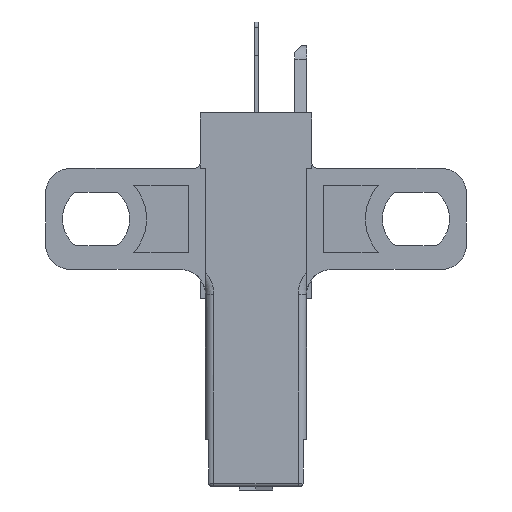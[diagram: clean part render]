
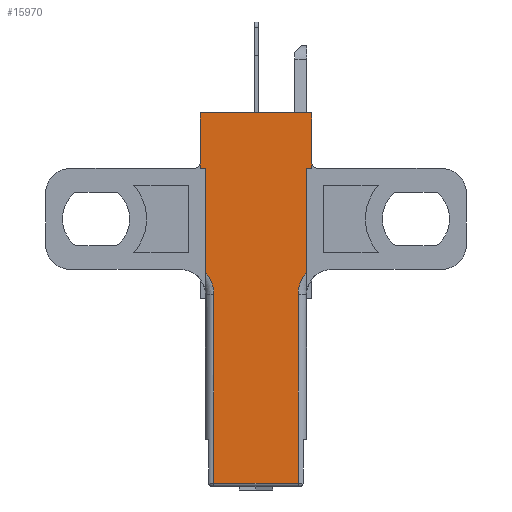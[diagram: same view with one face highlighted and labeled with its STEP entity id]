
A CAD part, front view. The second image highlights one B-rep face of the part: STEP entity #15970.
In plain terms, the highlighted planar face has unit normal (0, -1, 0).
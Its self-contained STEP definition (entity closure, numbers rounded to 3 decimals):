
#31 = CARTESIAN_POINT ( 'NONE',  ( 1.286, -4.287, 23.377 ) ) ;
#302 = AXIS2_PLACEMENT_3D ( 'NONE', #900, #10781, #2323 ) ;
#309 = VECTOR ( 'NONE', #7341, 1000. ) ;
#416 = CARTESIAN_POINT ( 'NONE',  ( 1.266, -4.287, 23.1 ) ) ;
#512 = EDGE_CURVE ( 'NONE', #16768, #6977, #18088, .T. ) ;
#513 = DIRECTION ( 'NONE',  ( -1., 0., 0. ) ) ;
#688 = AXIS2_PLACEMENT_3D ( 'NONE', #6521, #16442, #7949 ) ;
#716 = VERTEX_POINT ( 'NONE', #4762 ) ;
#718 = CARTESIAN_POINT ( 'NONE',  ( 1.266, -4.287, 4.2 ) ) ;
#801 = CARTESIAN_POINT ( 'NONE',  ( 2.466, -4.287, 15.6 ) ) ;
#900 = CARTESIAN_POINT ( 'NONE',  ( -5.344, -4.287, 23.374 ) ) ;
#1046 = VERTEX_POINT ( 'NONE', #15349 ) ;
#1107 = CIRCLE ( 'NONE', #688, 0.4 ) ;
#1586 = ORIENTED_EDGE ( 'NONE', *, *, #12367, .F. ) ;
#1893 = DIRECTION ( 'NONE',  ( 0., 1., 0. ) ) ;
#1948 = EDGE_CURVE ( 'NONE', #6977, #13284, #10895, .T. ) ;
#2148 = DIRECTION ( 'NONE',  ( 0., 0., 1. ) ) ;
#2163 = EDGE_CURVE ( 'NONE', #1046, #9243, #18261, .T. ) ;
#2227 = DIRECTION ( 'NONE',  ( 0., 0., -1. ) ) ;
#2314 = CARTESIAN_POINT ( 'NONE',  ( -4.534, -4.287, 7. ) ) ;
#2323 = DIRECTION ( 'NONE',  ( 0., 0., -1. ) ) ;
#2336 = VERTEX_POINT ( 'NONE', #14885 ) ;
#2629 = DIRECTION ( 'NONE',  ( 0., 0., -1. ) ) ;
#2770 = VERTEX_POINT ( 'NONE', #9059 ) ;
#2956 = ORIENTED_EDGE ( 'NONE', *, *, #15750, .F. ) ;
#3076 = EDGE_CURVE ( 'NONE', #2336, #10909, #16888, .T. ) ;
#3150 = VERTEX_POINT ( 'NONE', #13823 ) ;
#4092 = LINE ( 'NONE', #11532, #309 ) ;
#4302 = EDGE_CURVE ( 'NONE', #15866, #1046, #10116, .T. ) ;
#4539 = DIRECTION ( 'NONE',  ( 0., 0., 1. ) ) ;
#4662 = VECTOR ( 'NONE', #2629, 1000. ) ;
#4738 = ORIENTED_EDGE ( 'NONE', *, *, #2163, .F. ) ;
#4762 = CARTESIAN_POINT ( 'NONE',  ( -5.334, -4.287, 23.374 ) ) ;
#5085 = VECTOR ( 'NONE', #16008, 1000. ) ;
#5148 = VECTOR ( 'NONE', #2148, 1000. ) ;
#5172 = ORIENTED_EDGE ( 'NONE', *, *, #1948, .T. ) ;
#5406 = ORIENTED_EDGE ( 'NONE', *, *, #5901, .T. ) ;
#5498 = CARTESIAN_POINT ( 'NONE',  ( 1.266, -4.287, 26.4 ) ) ;
#5524 = CARTESIAN_POINT ( 'NONE',  ( 0.966, -4.287, 16.923 ) ) ;
#5622 = DIRECTION ( 'NONE',  ( 1., 0., 0. ) ) ;
#5666 = AXIS2_PLACEMENT_3D ( 'NONE', #10341, #1893, #11778 ) ;
#5694 = ORIENTED_EDGE ( 'NONE', *, *, #17683, .F. ) ;
#5883 = LINE ( 'NONE', #8585, #12963 ) ;
#5901 = EDGE_CURVE ( 'NONE', #13284, #11594, #17637, .T. ) ;
#6521 = CARTESIAN_POINT ( 'NONE',  ( 1.666, -4.287, 23.5 ) ) ;
#6747 = VECTOR ( 'NONE', #5622, 1000. ) ;
#6964 = ORIENTED_EDGE ( 'NONE', *, *, #18175, .F. ) ;
#6977 = VERTEX_POINT ( 'NONE', #8435 ) ;
#6982 = CARTESIAN_POINT ( 'NONE',  ( 0.966, -4.287, 23.1 ) ) ;
#7018 = ORIENTED_EDGE ( 'NONE', *, *, #13779, .F. ) ;
#7074 = CARTESIAN_POINT ( 'NONE',  ( -5.334, -4.287, 4.4 ) ) ;
#7115 = VECTOR ( 'NONE', #513, 1000. ) ;
#7341 = DIRECTION ( 'NONE',  ( -1., 0., 0. ) ) ;
#7719 = CARTESIAN_POINT ( 'NONE',  ( -5.734, -4.287, 23.5 ) ) ;
#7731 = CARTESIAN_POINT ( 'NONE',  ( -4.534, -4.287, 4.4 ) ) ;
#7782 = AXIS2_PLACEMENT_3D ( 'NONE', #7719, #17648, #9129 ) ;
#7949 = DIRECTION ( 'NONE',  ( 0., 0., -1. ) ) ;
#8018 = DIRECTION ( 'NONE',  ( 0., 1., 0. ) ) ;
#8052 = DIRECTION ( 'NONE',  ( 0., 0., 1. ) ) ;
#8123 = CARTESIAN_POINT ( 'NONE',  ( 0.466, -4.287, 15.6 ) ) ;
#8137 = DIRECTION ( 'NONE',  ( 0., -1., 0. ) ) ;
#8435 = CARTESIAN_POINT ( 'NONE',  ( 0.466, -4.287, 4.4 ) ) ;
#8585 = CARTESIAN_POINT ( 'NONE',  ( -5.334, -4.287, 4.2 ) ) ;
#8761 = VERTEX_POINT ( 'NONE', #31 ) ;
#8830 = LINE ( 'NONE', #8934, #5085 ) ;
#8897 = CARTESIAN_POINT ( 'NONE',  ( -5.334, -4.287, 26.4 ) ) ;
#8934 = CARTESIAN_POINT ( 'NONE',  ( 1.266, -4.287, 4.2 ) ) ;
#9059 = CARTESIAN_POINT ( 'NONE',  ( 1.266, -4.287, 23.5 ) ) ;
#9129 = DIRECTION ( 'NONE',  ( 0., 0., -1. ) ) ;
#9131 = AXIS2_PLACEMENT_3D ( 'NONE', #16624, #8137, #18073 ) ;
#9243 = VERTEX_POINT ( 'NONE', #5498 ) ;
#9305 = ORIENTED_EDGE ( 'NONE', *, *, #3076, .T. ) ;
#9314 = CARTESIAN_POINT ( 'NONE',  ( -4.534, -4.287, 15.6 ) ) ;
#9574 = LINE ( 'NONE', #2314, #12456 ) ;
#9583 = EDGE_CURVE ( 'NONE', #17284, #16509, #16468, .T. ) ;
#9661 = ORIENTED_EDGE ( 'NONE', *, *, #9583, .T. ) ;
#10116 = LINE ( 'NONE', #13002, #13447 ) ;
#10193 = VECTOR ( 'NONE', #11085, 1000. ) ;
#10197 = VECTOR ( 'NONE', #15973, 1000. ) ;
#10236 = AXIS2_PLACEMENT_3D ( 'NONE', #16518, #8018, #17974 ) ;
#10263 = CIRCLE ( 'NONE', #7782, 0.4 ) ;
#10304 = CARTESIAN_POINT ( 'NONE',  ( 0.466, -4.287, 15.6 ) ) ;
#10334 = ORIENTED_EDGE ( 'NONE', *, *, #13868, .T. ) ;
#10341 = CARTESIAN_POINT ( 'NONE',  ( 1.276, -4.287, 23.374 ) ) ;
#10418 = EDGE_CURVE ( 'NONE', #12681, #11594, #12640, .T. ) ;
#10676 = DIRECTION ( 'NONE',  ( 0., 1., 0. ) ) ;
#10781 = DIRECTION ( 'NONE',  ( 0., 1., 0. ) ) ;
#10895 = LINE ( 'NONE', #8123, #11346 ) ;
#10909 = VERTEX_POINT ( 'NONE', #9314 ) ;
#11074 = CARTESIAN_POINT ( 'NONE',  ( 0.966, -4.287, 4.2 ) ) ;
#11085 = DIRECTION ( 'NONE',  ( 0., 0., 1. ) ) ;
#11179 = CARTESIAN_POINT ( 'NONE',  ( -5.334, -4.287, 23.1 ) ) ;
#11260 = EDGE_CURVE ( 'NONE', #2770, #9243, #8830, .T. ) ;
#11346 = VECTOR ( 'NONE', #8052, 1000. ) ;
#11455 = EDGE_CURVE ( 'NONE', #12455, #716, #17066, .T. ) ;
#11532 = CARTESIAN_POINT ( 'NONE',  ( -5.334, -4.287, 23.1 ) ) ;
#11594 = VERTEX_POINT ( 'NONE', #5524 ) ;
#11655 = ORIENTED_EDGE ( 'NONE', *, *, #512, .T. ) ;
#11778 = DIRECTION ( 'NONE',  ( 0., 0., -1. ) ) ;
#12367 = EDGE_CURVE ( 'NONE', #12455, #15866, #10263, .T. ) ;
#12455 = VERTEX_POINT ( 'NONE', #17776 ) ;
#12456 = VECTOR ( 'NONE', #16286, 1000. ) ;
#12460 = CARTESIAN_POINT ( 'NONE',  ( -5.034, -4.287, 4.2 ) ) ;
#12640 = LINE ( 'NONE', #11074, #4662 ) ;
#12681 = VERTEX_POINT ( 'NONE', #6982 ) ;
#12834 = ORIENTED_EDGE ( 'NONE', *, *, #16271, .F. ) ;
#12963 = VECTOR ( 'NONE', #17088, 1000. ) ;
#13002 = CARTESIAN_POINT ( 'NONE',  ( -5.334, -4.287, 4.2 ) ) ;
#13158 = EDGE_LOOP ( 'NONE', ( #13906, #11655, #5172, #5406, #14848, #7018, #9661, #10334, #12834, #17747, #4738, #15833, #1586, #15905, #5694, #2956, #6964, #9305 ) ) ;
#13284 = VERTEX_POINT ( 'NONE', #10304 ) ;
#13363 = AXIS2_PLACEMENT_3D ( 'NONE', #801, #10676, #2227 ) ;
#13447 = VECTOR ( 'NONE', #4539, 1000. ) ;
#13779 = EDGE_CURVE ( 'NONE', #17284, #12681, #4092, .T. ) ;
#13823 = CARTESIAN_POINT ( 'NONE',  ( -5.034, -4.287, 23.1 ) ) ;
#13868 = EDGE_CURVE ( 'NONE', #16509, #8761, #14033, .T. ) ;
#13906 = ORIENTED_EDGE ( 'NONE', *, *, #14600, .T. ) ;
#13990 = LINE ( 'NONE', #12460, #10193 ) ;
#14033 = CIRCLE ( 'NONE', #5666, 0.01 ) ;
#14123 = CARTESIAN_POINT ( 'NONE',  ( 1.266, -4.287, 23.374 ) ) ;
#14600 = EDGE_CURVE ( 'NONE', #10909, #16768, #9574, .T. ) ;
#14614 = LINE ( 'NONE', #16065, #7115 ) ;
#14848 = ORIENTED_EDGE ( 'NONE', *, *, #10418, .F. ) ;
#14885 = CARTESIAN_POINT ( 'NONE',  ( -5.034, -4.287, 16.923 ) ) ;
#15185 = PLANE ( 'NONE',  #9131 ) ;
#15349 = CARTESIAN_POINT ( 'NONE',  ( -5.334, -4.287, 26.4 ) ) ;
#15750 = EDGE_CURVE ( 'NONE', #3150, #17064, #14614, .T. ) ;
#15833 = ORIENTED_EDGE ( 'NONE', *, *, #4302, .F. ) ;
#15866 = VERTEX_POINT ( 'NONE', #16305 ) ;
#15905 = ORIENTED_EDGE ( 'NONE', *, *, #11455, .T. ) ;
#15970 = ADVANCED_FACE ( 'NONE', ( #17290 ), #15185, .T. ) ;
#15973 = DIRECTION ( 'NONE',  ( 1., 0., 0. ) ) ;
#16008 = DIRECTION ( 'NONE',  ( 0., 0., 1. ) ) ;
#16065 = CARTESIAN_POINT ( 'NONE',  ( -5.334, -4.287, 23.1 ) ) ;
#16271 = EDGE_CURVE ( 'NONE', #2770, #8761, #1107, .T. ) ;
#16286 = DIRECTION ( 'NONE',  ( 0., 0., -1. ) ) ;
#16305 = CARTESIAN_POINT ( 'NONE',  ( -5.334, -4.287, 23.5 ) ) ;
#16442 = DIRECTION ( 'NONE',  ( 0., -1., 0. ) ) ;
#16468 = LINE ( 'NONE', #718, #5148 ) ;
#16509 = VERTEX_POINT ( 'NONE', #14123 ) ;
#16518 = CARTESIAN_POINT ( 'NONE',  ( -6.534, -4.287, 15.6 ) ) ;
#16624 = CARTESIAN_POINT ( 'NONE',  ( -5.334, -4.287, 4.2 ) ) ;
#16768 = VERTEX_POINT ( 'NONE', #7731 ) ;
#16888 = CIRCLE ( 'NONE', #10236, 2. ) ;
#17064 = VERTEX_POINT ( 'NONE', #11179 ) ;
#17066 = CIRCLE ( 'NONE', #302, 0.01 ) ;
#17088 = DIRECTION ( 'NONE',  ( 0., 0., 1. ) ) ;
#17284 = VERTEX_POINT ( 'NONE', #416 ) ;
#17290 = FACE_OUTER_BOUND ( 'NONE', #13158, .T. ) ;
#17637 = CIRCLE ( 'NONE', #13363, 2. ) ;
#17648 = DIRECTION ( 'NONE',  ( 0., -1., 0. ) ) ;
#17683 = EDGE_CURVE ( 'NONE', #17064, #716, #5883, .T. ) ;
#17747 = ORIENTED_EDGE ( 'NONE', *, *, #11260, .T. ) ;
#17776 = CARTESIAN_POINT ( 'NONE',  ( -5.353, -4.287, 23.377 ) ) ;
#17974 = DIRECTION ( 'NONE',  ( 0., 0., -1. ) ) ;
#18073 = DIRECTION ( 'NONE',  ( 0., 0., -1. ) ) ;
#18088 = LINE ( 'NONE', #7074, #6747 ) ;
#18175 = EDGE_CURVE ( 'NONE', #2336, #3150, #13990, .T. ) ;
#18261 = LINE ( 'NONE', #8897, #10197 ) ;
